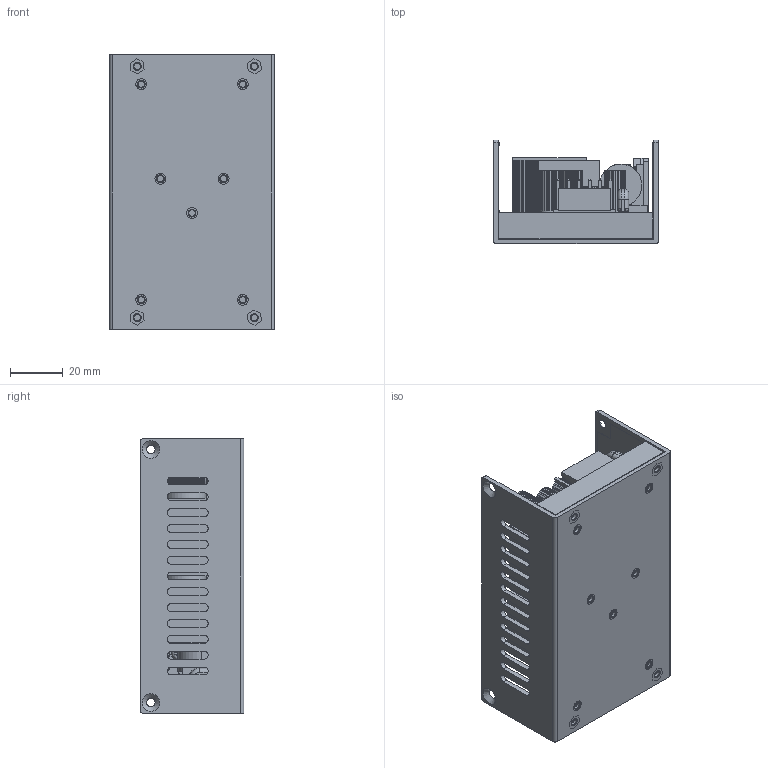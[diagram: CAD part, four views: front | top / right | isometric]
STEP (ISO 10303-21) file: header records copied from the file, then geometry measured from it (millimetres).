
FILE_DESCRIPTION(/* description */ (''),/* implementation_level */ '2;1');
FILE_NAME(/* name */ 'D:\Inventor\ARF240\ARF240U A-TYPE.stp',/* time_stamp */ '2020-06-08T11:06:03+08:00',/* author */ ('peter'),/* organization */ (''),/* preprocessor_version */ 'ST-DEVELOPER v15.2',/* originating_system */ 'Autodesk Inventor 2014',/* authorisation */ '');
FILE_SCHEMA (('AUTOMOTIVE_DESIGN { 1 0 10303 214 3 1 1 }'));
Length unit declared in the file: millimetre
Products named in the file (19): MQF240; 8-22; R377ARF24001; R380MARF24001; M3-1; R378ARF24002; PCB; 2S+1 PIN; R378ARF24001; BD1; TO-220FP; SCREW CH_W  M3_6mm; X1; NTC1 _ 10mm; VR; Y - C; 6 PIN; ARF240O A-TYPE for U_E; ARF240U A-TYPE
Bounding box: 62.5 x 39.2 x 104 mm (x, y, z)
Volume: 111700.7 mm3; surface area: 94123 mm2
Topology: 51 solids, 53 shells, 2146 faces, 5644 edges, 3683 vertices
Faces by surface type: plane 1461, cylinder 299, bspline 251, cone 75, torus 52, sphere 8
Full cylindrical faces by diameter (mm): 0.051 x2, 0.45 x3, 0.5 x1, 0.6 x12, 0.8 x4, 1 x4, 1.85 x2, 2.459 x13, 2.5 x2, 3 x19, 3.1 x6, 3.2 x5, 3.7 x2, 4 x4, 4.1 x9, 5.8 x6, 16 x1
Entity records: 50906 total; most frequent: CARTESIAN_POINT 11460, ORIENTED_EDGE 8140, DIRECTION 6992, EDGE_CURVE 4070, LINE 3256, VECTOR 3256, VERTEX_POINT 2717, AXIS2_PLACEMENT_3D 1868
